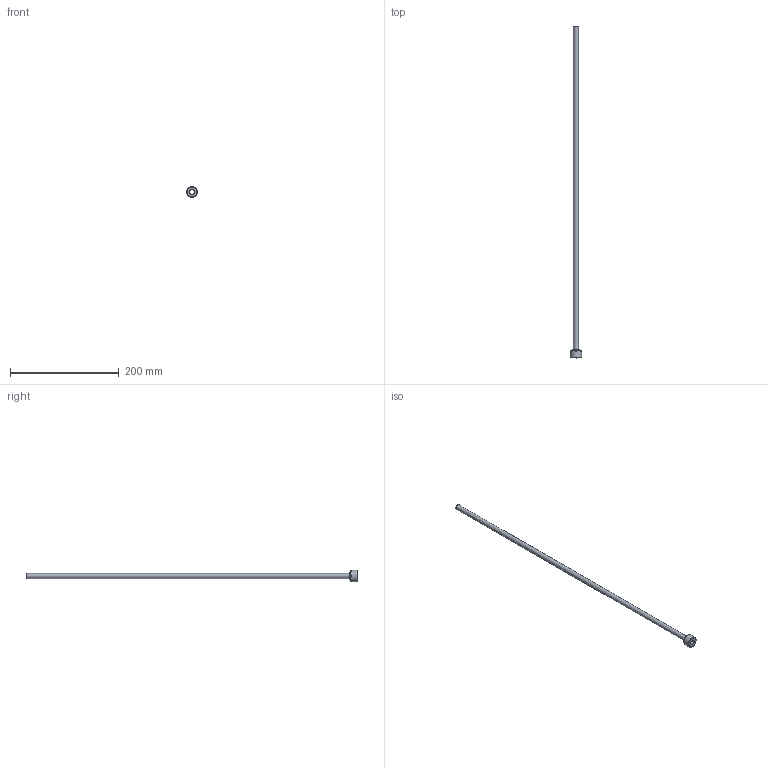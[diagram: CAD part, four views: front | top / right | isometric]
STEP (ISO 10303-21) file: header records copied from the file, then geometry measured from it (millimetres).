
FILE_DESCRIPTION(/* description */ (''),/* implementation_level */ '2;1');
FILE_NAME(/* name */ 'C:/Users/drich/Desktop/PT12-375-24 v1.step',/* time_stamp */ '2019-12-27T14:49:23-06:00',/* author */ (''),/* organization */ (''),/* preprocessor_version */ 'ST-DEVELOPER v18',/* originating_system */ 'Autodesk Translation Framework v8.12.0.6',/* authorisation */ '');
FILE_SCHEMA (('AUTOMOTIVE_DESIGN { 1 0 10303 214 3 1 1 }'));
Length unit declared in the file: inch
Products named in the file (1): PT12-375-24
Bounding box: 20.81 x 609.6 x 20.81 mm (x, y, z)
Volume: 9008.6 mm3; surface area: 35317.9 mm2
Topology: 1 solids, 1 shells, 19 faces, 48 edges, 34 vertices
Faces by surface type: plane 11, cylinder 4, torus 2, cone 2
Full cylindrical faces by diameter (mm): 8.636 x1, 9.271 x1, 13.868 x1, 20.813 x1
Entity records: 633 total; most frequent: DIRECTION 112, CARTESIAN_POINT 102, ORIENTED_EDGE 96, EDGE_CURVE 48, AXIS2_PLACEMENT_3D 44, VERTEX_POINT 34, CIRCLE 24, EDGE_LOOP 24
